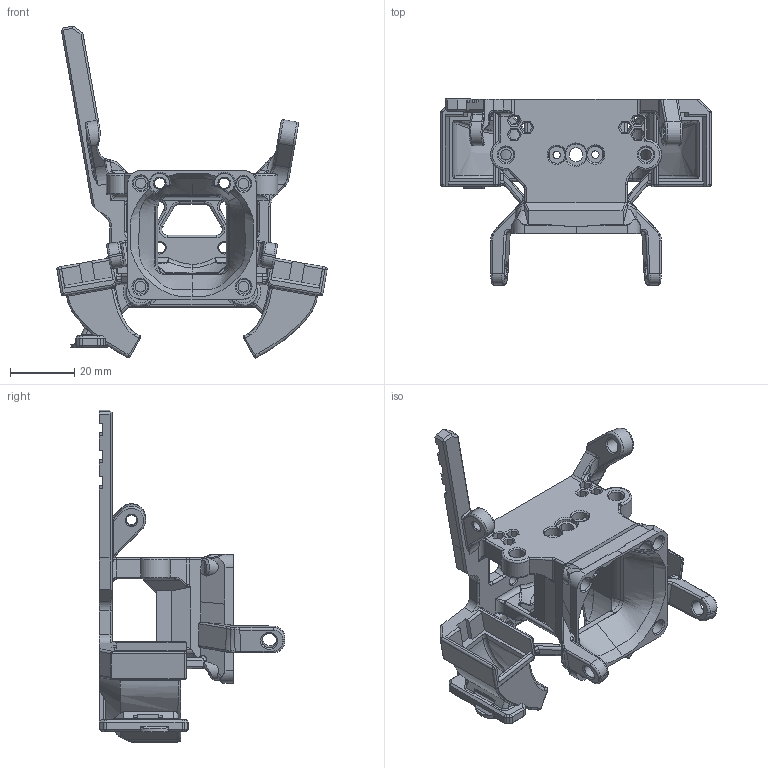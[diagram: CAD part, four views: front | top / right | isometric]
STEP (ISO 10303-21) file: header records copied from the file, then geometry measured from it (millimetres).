
FILE_DESCRIPTION(/* description */ (''),/* implementation_level */ '2;1');
FILE_NAME(/* name */ 'Toolhead Body_Sherpa_NF Crazy Volcano_BD Sensor v6.step',/* time_stamp */ '2023-10-11T03:42:34-05:00',/* author */ (''),/* organization */ (''),/* preprocessor_version */ 'ST-DEVELOPER v20',/* originating_system */ 'Autodesk Translation Framework v12.14.0.127',/* authorisation */ '');
FILE_SCHEMA (('AUTOMOTIVE_DESIGN { 1 0 10303 214 3 1 1 }'));
Products named in the file (1): Toolhead Body_Sherpa_NF Crazy Volcano_BD Sensor
Bounding box: 84.01 x 57.7 x 103.14 mm (x, y, z)
Volume: 33255.9 mm3; surface area: 26694.5 mm2
Topology: 1 solids, 1 shells, 1121 faces, 3042 edges, 1890 vertices
Faces by surface type: plane 360, cylinder 351, bspline 291, torus 70, cone 43, sphere 6
Full cylindrical faces by diameter (mm): 1.769 x5, 2.055 x2, 2.3 x2, 3.3 x13, 4.1 x2, 4.5 x7, 4.7 x2, 5.2 x2, 6.1 x1, 6.5 x1
Entity records: 71285 total; most frequent: CARTESIAN_POINT 44711, ORIENTED_EDGE 6042, DIRECTION 4890, EDGE_CURVE 3021, VERTEX_POINT 1890, AXIS2_PLACEMENT_3D 1776, LINE 1338, VECTOR 1338
